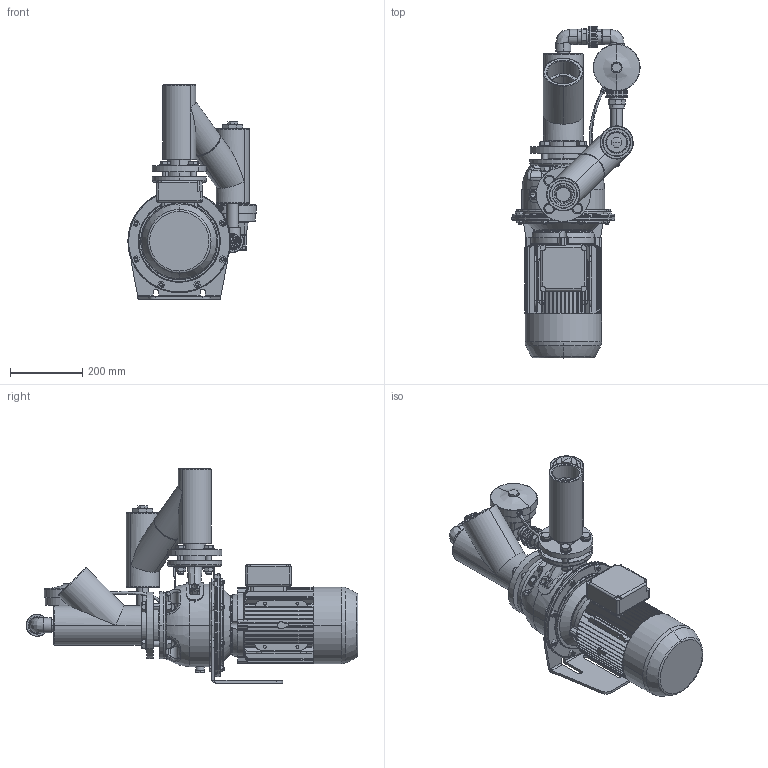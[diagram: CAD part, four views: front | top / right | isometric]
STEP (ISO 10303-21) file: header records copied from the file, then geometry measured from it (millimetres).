
FILE_DESCRIPTION (( 'STEP AP203' ), '1' );
FILE_NAME ('Lowara SHE 40-200 z.a.z auto. by-pass.STEP', '2011-04-06T10:26:50', ( '' ), ( '' ), 'SwSTEP 2.0', 'SolidWorks 2010', '' );
FILE_SCHEMA (( 'CONFIG_CONTROL_DESIGN' ));
Length unit declared in the file: millimetre
Products named in the file (1): Lowara SHE 40-200 z.a.z auto. by-pass
Bounding box: 355.5 x 920.4 x 593.48 mm (x, y, z)
Volume: 25128608.8 mm3; surface area: 2635680.2 mm2
Topology: 68 solids, 70 shells, 3048 faces, 7654 edges, 4785 vertices
Faces by surface type: plane 1167, cylinder 948, cone 499, bspline 388, torus 46
Entity records: 125883 total; most frequent: CARTESIAN_POINT 56823, ORIENTED_EDGE 15106, DIRECTION 13504, EDGE_CURVE 7553, AXIS2_PLACEMENT_3D 5310, VERTEX_POINT 4785, EDGE_LOOP 3360, FACE_OUTER_BOUND 3048
